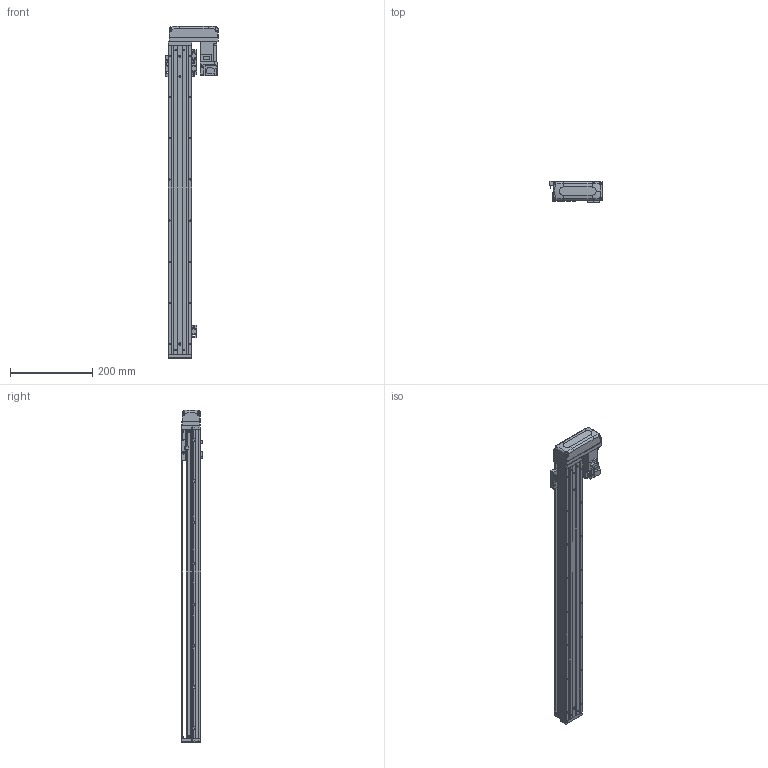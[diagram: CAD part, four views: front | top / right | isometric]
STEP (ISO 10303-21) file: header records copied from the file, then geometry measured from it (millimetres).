
FILE_DESCRIPTION (( 'STEP AP203' ), '1' );
FILE_NAME ('KTHA50-650-BL-M10-C4L.step', '2022-03-19T07:07:26', ( '微软用户' ), ( '微软中国' ), 'SwSTEP 2.0', 'SolidWorks 2020', '' );
FILE_SCHEMA (( 'CONFIG_CONTROL_DESIGN' ));
Length unit declared in the file: millimetre
Products named in the file (18): KTHA50-002; CTHA60-017; CTHA60-033; KTHA50-004; GBT 70.1-M4×12; GBT 70.1-M3×15; KTHA50-005; CTHA60-016; KTHA50-650-BL-M10-C4L; GB¨uT 70.2-M3¡Á6_M3¡Á6; CTHA60-021; EE_SX911P_R; GBT 70.3-M3℅6; GBT77-2000 M3×3; HG-KR13（三菱）; KTHA50-001_750; GBT 70.1-M3℅6; CTHA50-015-2_CTHA60-015-2
Assembly tree (53 placements, depth 2):
  KTHA50-650-BL-M10-C4L
    KTHA50-001_750
    KTHA50-002
    KTHA50-004
    KTHA50-005
    GB¨uT 70.2-M3¡Á6_M3¡Á6  x6
    EE_SX911P_R  x3
    GBT77-2000 M3×3  x6
    GBT 70.1-M3℅6  x6
    CTHA60-017  x3
    GBT 70.1-M4×12  x10
    CTHA60-016  x2
    CTHA60-021  x2
    GBT 70.3-M3℅6  x4
    HG-KR13（三菱）
    CTHA50-015-2_CTHA60-015-2
    CTHA60-033
    GBT 70.1-M3×15  x4
Bounding box: 128.4 x 53.3 x 807 mm (x, y, z)
Volume: 1580179.4 mm3; surface area: 386479.5 mm2
Topology: 56 solids, 56 shells, 2303 faces, 5463 edges, 3352 vertices
Faces by surface type: plane 1288, cylinder 562, cone 311, torus 100, bspline 26, sphere 16
Entity records: 39527 total; most frequent: CARTESIAN_POINT 7458, DIRECTION 6185, ORIENTED_EDGE 5938, EDGE_CURVE 2969, AXIS2_PLACEMENT_3D 2095, LINE 1995, VECTOR 1995, VERTEX_POINT 1866
